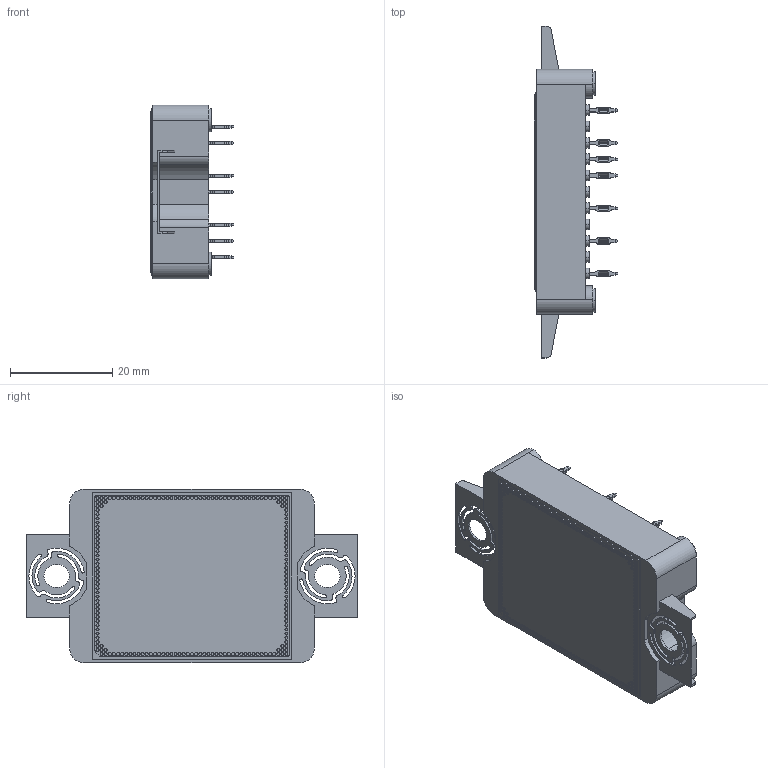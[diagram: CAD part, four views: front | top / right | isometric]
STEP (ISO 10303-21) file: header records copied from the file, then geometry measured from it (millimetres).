
FILE_DESCRIPTION (( 'STEP AP214' ), '1' );
FILE_NAME ('G3F09MT12FB2_SHARED.STEP', '2024-11-29T03:03:06', ( '' ), ( '' ), 'SwSTEP 2.0', 'SolidWorks 2023', '' );
FILE_SCHEMA (( 'AUTOMOTIVE_DESIGN' ));
Length unit declared in the file: millimetre
Products named in the file (8): SOLDER_1; HOLDER_2; G3F09MT12FB2_SHARED; DBC-BOTTOM_CU_1; CERAMIC-AL2O3_1; PRESSFIT-PIN_2; DBC_ASM_1; COVER_1
Assembly tree (41 placements, depth 3):
  G3F09MT12FB2_SHARED
    DBC_ASM_1
      CERAMIC-AL2O3_1
      DBC-BOTTOM_CU_1
    SOLDER_1
    HOLDER_2  x18
    PRESSFIT-PIN_2  x18
    COVER_1
Bounding box: 16.4 x 65 x 34 mm (x, y, z)
Volume: 5374.5 mm3; surface area: 14293.9 mm2
Topology: 57 solids, 57 shells, 2344 faces, 6130 edges, 4034 vertices
Faces by surface type: cylinder 1165, plane 777, torus 322, cone 80
Entity records: 63022 total; most frequent: CARTESIAN_POINT 9908, DIRECTION 8315, ORIENTED_EDGE 7568, EDGE_CURVE 3784, AXIS2_PLACEMENT_3D 3497, VERTEX_POINT 2572, CIRCLE 2094, EDGE_LOOP 2016
